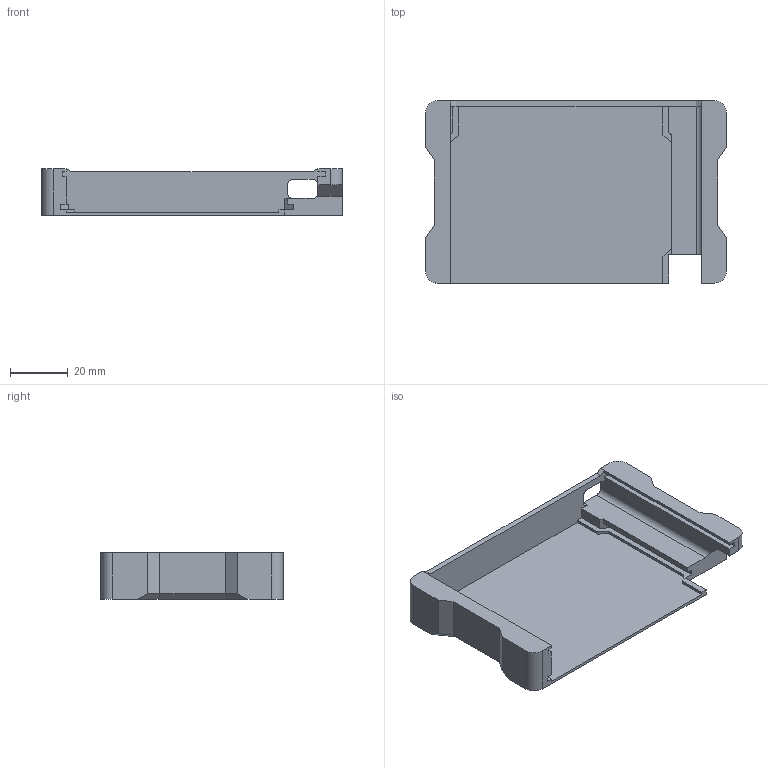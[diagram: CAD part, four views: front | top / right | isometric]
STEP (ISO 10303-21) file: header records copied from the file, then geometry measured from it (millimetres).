
FILE_DESCRIPTION(/* description */ ('STEP AP242','CAx-IF Rec.Pracs.---Representation and Presentation of Product Manufacturing Information (PMI)---4.0---2014-10-13','CAx-IF Rec.Pracs.---3D Tessellated Geometry---0.4---2014-09-14','2;1'),/* implementation_level */ '2;1');
FILE_NAME(/* name */ '687e6b04f344454910d47d0f',/* time_stamp */ '2025-07-21T16:29:56Z',/* author */ (''),/* organization */ (''),/* preprocessor_version */ 'ST-DEVELOPER v20',/* originating_system */ 'ONSHAPE BY PTC INC, 1.201',/* authorisation */ ' ');
FILE_SCHEMA (('AP242_MANAGED_MODEL_BASED_3D_ENGINEERING_MIM_LF { 1 0 10303 442 1 1 4 }'));
Length unit declared in the file: metre
Products named in the file (1): PCB Spacer
Bounding box: 104.5 x 63.35 x 16.3 mm (x, y, z)
Volume: 23613.8 mm3; surface area: 20208.2 mm2
Topology: 1 solids, 1 shells, 72 faces, 208 edges, 137 vertices
Faces by surface type: plane 64, cylinder 8
Entity records: 2355 total; most frequent: CARTESIAN_POINT 418, ORIENTED_EDGE 416, DIRECTION 371, EDGE_CURVE 208, LINE 191, VECTOR 191, VERTEX_POINT 137, AXIS2_PLACEMENT_3D 90
